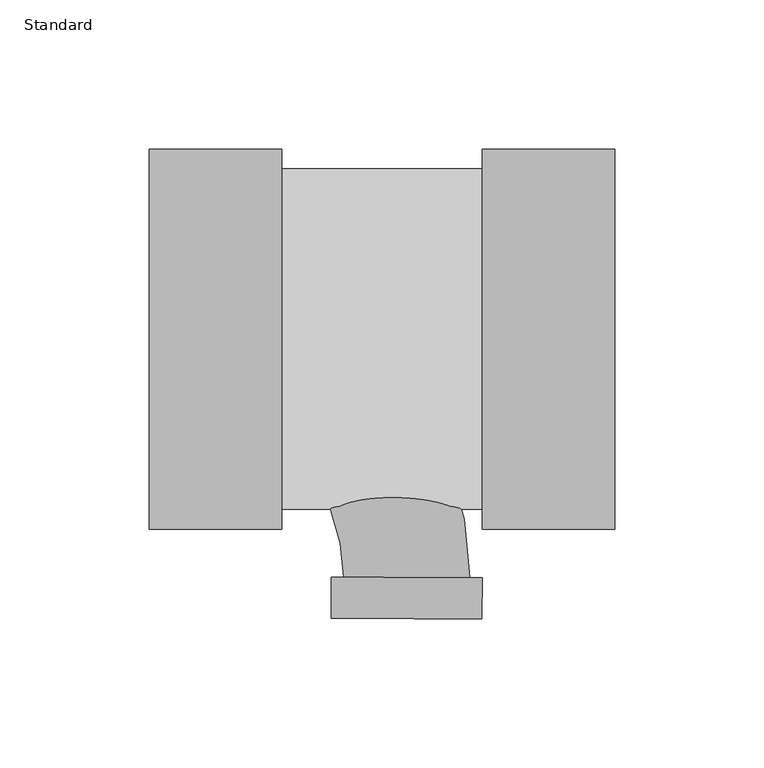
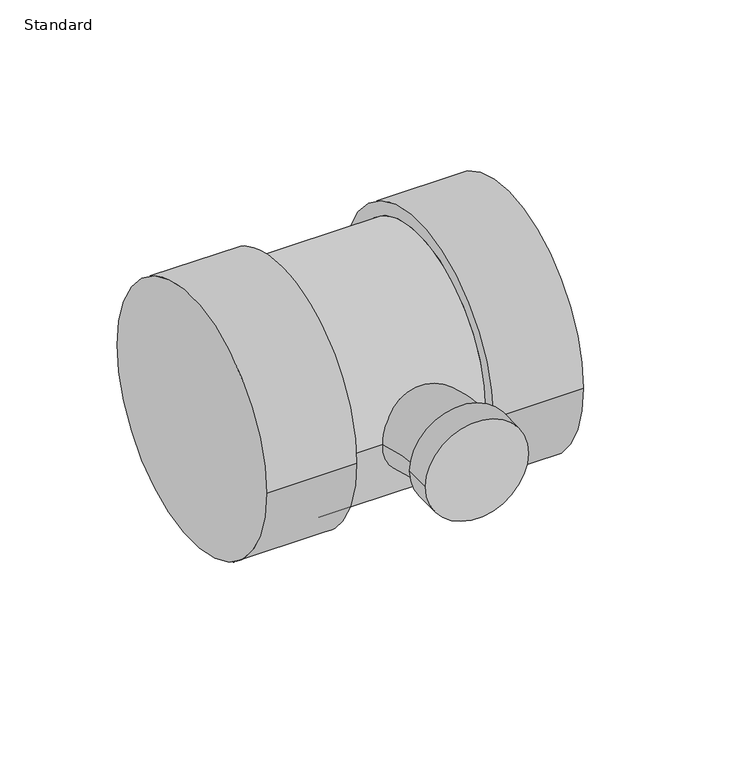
"""IFC4 building model written with IfcOpenShell, lengths in millimetres: pipe fitting geometry, EG-RCAN Té sanitaire de réduction - PVC - Nom. 40 - DWV : Standard."""

import ifcopenshell
import ifcopenshell.guid

model = None  # the IFC model being written
_history = None  # IfcOwnerHistory: only IFC2X3 demands one
_inside = {}  # id of a spatial element -> (the spatial element, [elements in it])
_under = {}  # id of a project, library or spatial element -> (it, [spatial elements below it])
_declared = {}  # id of a project -> (the project, [libraries it declares])
_typed = {}  # id of a type object -> (the type object, [elements of that type])
_made_of = {}  # id of a material, layer set ... -> (it, [elements and type objects made of it])


def new_model(schema):
    """Start an empty IFC model of exactly this schema.

    Asked for "IFC4X3", IfcOpenShell would pick the latest addendum, in which some entities
    have other attributes; the version numbers below select the first issue.
    IFC2X3 requires an IfcOwnerHistory on every rooted entity: one is made here for all.
    """
    global model, _history
    if schema == "IFC4X3":
        model = ifcopenshell.file(schema_version=(4, 3, 0, 0))
    else:
        model = ifcopenshell.file(schema=schema)
    _inside.clear()
    _under.clear()
    _declared.clear()
    _typed.clear()
    _made_of.clear()
    _history = None
    if model.schema == "IFC2X3":
        org = make("IfcOrganization", Name="unknown")
        user = make(
            "IfcPersonAndOrganization",
            ThePerson=make("IfcPerson", FamilyName="unknown"),
            TheOrganization=org,
        )
        app = make(
            "IfcApplication",
            ApplicationDeveloper=org,
            Version="unknown",
            ApplicationFullName="unknown",
            ApplicationIdentifier="unknown",
        )
        _history = make(
            "IfcOwnerHistory",
            OwningUser=user,
            OwningApplication=app,
            ChangeAction="ADDED",
            CreationDate=0,
        )
    return model


def make(cls, **values):
    """One entity of the class cls with the attributes given. An attribute that is None is left unset."""
    return model.create_entity(
        cls, **{name: value for name, value in values.items() if value is not None}
    )


def rooted(cls, **values):
    """An entity with a GlobalId (a new one), such as an element, a storey or a relation."""
    return make(cls, GlobalId=ifcopenshell.guid.new(), OwnerHistory=_history, **values)


def si_unit(unit_type, name, prefix=None):
    """IfcSIUnit, for example si_unit("LENGTHUNIT", "METRE", prefix="MILLI")."""
    return make("IfcSIUnit", UnitType=unit_type, Prefix=prefix, Name=name)


def assignment(units):
    """IfcUnitAssignment: the units of a project."""
    return None if units is None else make("IfcUnitAssignment", Units=units)


def point(xyz):
    """IfcCartesianPoint."""
    return None if xyz is None else make("IfcCartesianPoint", Coordinates=xyz)


def direction(xyz):
    """IfcDirection."""
    return None if xyz is None else make("IfcDirection", DirectionRatios=xyz)


def frame(location, z_axis=None, x_axis=None):
    """IfcAxis2Placement3D, a coordinate frame: its origin and axes. An axis left out is left unset."""
    return make(
        "IfcAxis2Placement3D",
        Location=point(location),
        Axis=direction(z_axis),
        RefDirection=direction(x_axis),
    )


def origin():
    """The frame at (0, 0, 0) with its axes left unset."""
    return frame((0.0, 0.0, 0.0))


def place(relative_to, where):
    """IfcLocalPlacement: puts the frame where relative to a parent placement (None: the world)."""
    return make(
        "IfcLocalPlacement", PlacementRelTo=relative_to, RelativePlacement=where
    )


def context(
    kind, dimensions, precision=None, world=None, true_north=None, identifier=None
):
    """IfcGeometricRepresentationContext, for example the 3D "Model" context."""
    return make(
        "IfcGeometricRepresentationContext",
        ContextIdentifier=identifier,
        ContextType=kind,
        CoordinateSpaceDimension=dimensions,
        Precision=precision,
        WorldCoordinateSystem=world,
        TrueNorth=true_north,
    )


def project(units=None, contexts=None):
    """IfcProject with its units and contexts."""
    return rooted(
        "IfcProject",
        Name="project",
        RepresentationContexts=contexts,
        UnitsInContext=assignment(units),
    )


def spatial(cls, under=None, at=None, **own):
    """A site, building, storey or space (cls), placed at a placement, below another one or the project."""
    s = rooted(cls, ObjectPlacement=at, **own)
    if under is not None:
        _under.setdefault(under.id(), (under, []))[1].append(s)
    return s


def circle_curve(where, radius):
    """IfcCircle in the frame where."""
    return make("IfcCircle", Position=where, Radius=radius)


def ellipse_curve(where, semi_axis1, semi_axis2):
    """IfcEllipse in the frame where."""
    return make(
        "IfcEllipse", Position=where, SemiAxis1=semi_axis1, SemiAxis2=semi_axis2
    )


def trimmed(basis, trim1, trim2, sense, master):
    """IfcTrimmedCurve: the piece of a basis curve between two trims."""
    return make(
        "IfcTrimmedCurve",
        BasisCurve=basis,
        Trim1=trim1,
        Trim2=trim2,
        SenseAgreement=sense,
        MasterRepresentation=master,
    )


def shape(context_of_items, identifier, shape_type, items):
    """IfcShapeRepresentation: the items that make up one representation, for example the "Body"."""
    return make(
        "IfcShapeRepresentation",
        ContextOfItems=context_of_items,
        RepresentationIdentifier=identifier,
        RepresentationType=shape_type,
        Items=items,
    )


def source(mapping_origin, context_of_items, identifier, shape_type, items):
    """IfcRepresentationMap: a shape defined once, which mapped items show again and again."""
    return make(
        "IfcRepresentationMap",
        MappingOrigin=mapping_origin,
        MappedRepresentation=shape(context_of_items, identifier, shape_type, items),
    )


def transform(
    local_origin,
    x_axis=None,
    y_axis=None,
    z_axis=None,
    scale=None,
    scale2=None,
    scale3=None,
    uniform=True,
):
    """IfcCartesianTransformationOperator3D, or its non-uniform kind. x_axis, y_axis, z_axis: its Axis1, 2, 3."""
    if uniform:
        return make(
            "IfcCartesianTransformationOperator3D",
            Axis1=direction(x_axis),
            Axis2=direction(y_axis),
            LocalOrigin=point(local_origin),
            Scale=scale,
            Axis3=direction(z_axis),
        )
    return make(
        "IfcCartesianTransformationOperator3DnonUniform",
        Axis1=direction(x_axis),
        Axis2=direction(y_axis),
        LocalOrigin=point(local_origin),
        Scale=scale,
        Axis3=direction(z_axis),
        Scale2=scale2,
        Scale3=scale3,
    )


def mapped(mapping_source, mapping_target):
    """IfcMappedItem: shows the shape of a source again, moved by a transform."""
    return make(
        "IfcMappedItem", MappingSource=mapping_source, MappingTarget=mapping_target
    )


def made_of(thing, what):
    """Note that an element or type object is made of a material, layer set ...; save() writes the relation."""
    if what is not None:
        _made_of.setdefault(what.id(), (what, []))[1].append(thing)
    return thing


def element(
    cls,
    number,
    at=None,
    inside=None,
    cuts=None,
    type_object=None,
    material=None,
    context=None,
    identifier="Body",
    shape_type=None,
    held_by="IfcProductDefinitionShape",
    body=None,
    shapes=None,
    **own,
):
    """One element of the class cls, such as IfcWall. Its Tag is "e" and its number.

    at: its placement. inside: the storey or other place that contains it. cuts: it is an
    opening in that element (IfcRelVoidsElement). A single representation is given by context,
    identifier, shape_type and body (its items); several are given by shapes. held_by: the class
    of the entity that holds the representations. save() writes the other relations.
    """
    e = rooted(cls, Tag="e%d" % number, ObjectPlacement=at, **own)
    if body is not None:
        shapes = [shape(context, identifier, shape_type, body)]
    if shapes is not None:
        e.Representation = make(held_by, Representations=shapes)
    if inside is not None:
        _inside.setdefault(inside.id(), (inside, []))[1].append(e)
    if cuts is not None:
        rooted(
            "IfcRelVoidsElement", RelatingBuildingElement=cuts, RelatedOpeningElement=e
        )
    if type_object is not None:
        _typed.setdefault(type_object.id(), (type_object, []))[1].append(e)
    return made_of(e, material)


def aggregate(whole, parts):
    """IfcRelAggregates: a whole, such as a stair, and the parts it consists of."""
    return rooted("IfcRelAggregates", RelatingObject=whole, RelatedObjects=parts)


def save(model, path):
    """Write the relations noted so far, then the file.

    IfcRelAggregates (storeys below a building ...), IfcRelContainedInSpatialStructure (elements
    in a storey), IfcRelDefinesByType, IfcRelAssociatesMaterial and IfcRelDeclares: one each for
    every whole, place, type object, material and project.
    """
    for whole, parts in _under.values():
        aggregate(whole, parts)
    for where, things in _inside.values():
        rooted(
            "IfcRelContainedInSpatialStructure",
            RelatedElements=things,
            RelatingStructure=where,
        )
    for kind, things in _typed.values():
        rooted("IfcRelDefinesByType", RelatedObjects=things, RelatingType=kind)
    for what, things in _made_of.values():
        rooted("IfcRelAssociatesMaterial", RelatedObjects=things, RelatingMaterial=what)
    for by, libraries in _declared.values():
        rooted("IfcRelDeclares", RelatingContext=by, RelatedDefinitions=libraries)
    model.write(path)


def plane_surface(at):
    """IfcPlane: the flat surface through the origin of the frame at, square to its z axis."""
    return make("IfcPlane", Position=at)


def cylinder_surface(at, radius):
    """IfcCylindricalSurface: all points at the distance radius from the z axis of the frame at."""
    return make("IfcCylindricalSurface", Position=at, Radius=radius)


def revolved_surface(curve, axis_point, axis_direction):
    """IfcSurfaceOfRevolution: the curve turned about the line through axis_point along axis_direction."""
    return make(
        "IfcSurfaceOfRevolution",
        SweptCurve=make("IfcArbitraryOpenProfileDef", ProfileType="CURVE", Curve=curve),
        AxisPosition=make("IfcAxis1Placement", Location=point(axis_point), Axis=direction(axis_direction)),
    )


def advanced_brep(points, edges, surfaces, faces):
    """IfcAdvancedBrep: a solid bounded by faces that lie on surfaces and meet in shared edges.

    An edge is (start, end): straight between two places in points (the first is 0);
    or (start, end, curve); or (start, end, curve, False) where it runs against its curve.
    A face is (place in surfaces, loops), or (place, loops, False) where it looks against
    its surface's normal. A loop lists edges by number (the first is 1), with a minus sign
    where the edge is run from its end to its start. The first loop is the outer one.
    """
    corners = [point(p) for p in points]
    vertices = [make("IfcVertexPoint", VertexGeometry=c) for c in corners]
    made = []
    for start, end, *more in edges:
        made.append(
            make(
                "IfcEdgeCurve",
                EdgeStart=vertices[start],
                EdgeEnd=vertices[end],
                EdgeGeometry=more[0] if more else make("IfcPolyline", Points=[corners[start], corners[end]]),
                SameSense=more[1] if len(more) > 1 else True,
            )
        )
    hull = []
    for where, loops, *sense in faces:
        bounds = []
        for j, loop in enumerate(loops):
            ring = [make("IfcOrientedEdge", EdgeElement=made[abs(k) - 1], Orientation=k > 0) for k in loop]
            bounds.append(
                make(
                    "IfcFaceOuterBound" if j == 0 else "IfcFaceBound",
                    Bound=make("IfcEdgeLoop", EdgeList=ring),
                    Orientation=True,
                )
            )
        hull.append(make("IfcAdvancedFace", Bounds=bounds, FaceSurface=surfaces[where], SameSense=sense[0] if sense else True))
    return make("IfcAdvancedBrep", Outer=make("IfcClosedShell", CfsFaces=hull))


def standard_58a6ea9f(model_context):
    return source(origin(), model_context, "Body", "AdvancedBrep", [
        advanced_brep(
        [(24.8273591, -63.754, 0.0), (24.8273591, 63.754, 0.0), (24.8273591, -57.15, 0.0), (24.8273591, 57.15, 0.0), (69.2773591, -63.754, 0.0), (69.2773591, 63.754, 0.0), (-42.4599062, 57.15, 0.0), (-42.4599062, -57.15, 0.0), (-86.9099063, -63.754, 0.0), (-86.9099062, 63.754, 0.0), (-42.4599063, -63.754, 0.0), (-42.4599062, 63.754, 0.0)],
        [
            (0, 1, circle_curve(frame((24.8273591, 0.0, 0.0), z_axis=(-1.0, 0.0, 0.0), x_axis=(0.0, 1.0, 0.0)), 63.754)),
            (1, 0, circle_curve(frame((24.8273591, 0.0, 0.0), z_axis=(-1.0, 0.0, 0.0), x_axis=(0.0, 1.0, 0.0)), 63.754)),
            (2, 3, circle_curve(frame((24.8273591, 0.0, 0.0), z_axis=(1.0, 0.0, 0.0), x_axis=(0.0, 0.0, -1.0)), 57.15)),
            (3, 2, circle_curve(frame((24.8273591, 0.0, 0.0), z_axis=(1.0, 0.0, 0.0), x_axis=(0.0, 0.0, 1.0)), 57.15)),
            (4, 5, circle_curve(frame((69.2773591, 0.0, 0.0), z_axis=(1.0, 0.0, 0.0), x_axis=(0.0, 1.0, 0.0)), 63.754)),
            (5, 4, circle_curve(frame((69.2773591, 0.0, 0.0), z_axis=(1.0, 0.0, 0.0), x_axis=(0.0, 1.0, 0.0)), 63.754)),
            (0, 4),
            (5, 1),
            (6, 3),
            (2, 7),
            (7, 6, circle_curve(frame((-42.4599063, 0.0, 0.0), z_axis=(1.0, 0.0, 0.0), x_axis=(0.0, 0.0, -1.0)), 57.15)),
            (6, 7, circle_curve(frame((-42.4599062, 0.0, 0.0), z_axis=(1.0, 0.0, 0.0), x_axis=(0.0, 0.0, 1.0)), 57.15)),
            (8, 9, circle_curve(frame((-86.9099062, 0.0, 0.0), z_axis=(-1.0, 0.0, 0.0), x_axis=(0.0, 1.0, 0.0)), 63.754)),
            (9, 8, circle_curve(frame((-86.9099062, 0.0, 0.0), z_axis=(-1.0, 0.0, 0.0), x_axis=(0.0, 1.0, 0.0)), 63.754)),
            (10, 11, circle_curve(frame((-42.4599062, 0.0, 0.0), z_axis=(1.0, 0.0, 0.0), x_axis=(0.0, 1.0, 0.0)), 63.754)),
            (11, 10, circle_curve(frame((-42.4599062, 0.0, 0.0), z_axis=(1.0, 0.0, 0.0), x_axis=(0.0, 1.0, 0.0)), 63.754)),
            (8, 10),
            (11, 9),
        ],
        [
            plane_surface(frame((24.8273591, 0.0, 0.0), z_axis=(-1.0, 0.0, 0.0), x_axis=(0.0, 0.0, 1.0))),
            plane_surface(frame((69.2773591, 0.0, 0.0), z_axis=(1.0, 0.0, 0.0), x_axis=(0.0, 0.0, 1.0))),
            cylinder_surface(frame((24.8273591, 0.0, 0.0), z_axis=(-1.0, 0.0, 0.0), x_axis=(0.0, 1.0, 0.0)), 63.754),
            cylinder_surface(frame((-42.4599062, 0.0, 0.0), z_axis=(1.0, 0.0, 0.0), x_axis=(0.0, 0.0, -1.0)), 57.15),
            cylinder_surface(frame((-42.4599062, 0.0, 0.0), z_axis=(1.0, 0.0, 0.0), x_axis=(0.0, 0.0, 1.0)), 57.15),
            plane_surface(frame((-86.9099062, 0.0, 0.0), z_axis=(-1.0, 0.0, 0.0), x_axis=(0.0, 0.0, 1.0))),
            plane_surface(frame((-42.4599062, 0.0, 0.0), z_axis=(1.0, 0.0, 0.0), x_axis=(0.0, 0.0, 1.0))),
            cylinder_surface(frame((-86.9099062, 0.0, 0.0), z_axis=(-1.0, 0.0, 0.0), x_axis=(0.0, 1.0, 0.0)), 63.754),
        ],
        [
            (0, [[1, 2], [3, 4]]),
            (1, [[5, 6]]),
            (2, [[-1, 7, -6, 8]]),
            (2, [[-2, -8, -5, -7]]),
            (3, [[9, -3, 10, 11]]),
            (4, [[-9, 12, -10, -4]]),
            (5, [[13, 14]]),
            (6, [[15, 16], [-11, -12]]),
            (7, [[-13, 17, -16, 18]]),
            (7, [[-14, -18, -15, -17]]),
        ],
    ),
        advanced_brep(
        [(-25.7060981, -79.8877281, 0.0), (24.8273591, -80.1651721, 0.0), (20.7643734, -80.1428651, 0.0), (-21.6431124, -79.9100351, 0.0), (-25.7815354, -93.6278335, 0.0), (24.7519217, -93.9052775, 0.0), (-80.0276562, -21.2040625, 0.0), (-80.0276562, 21.2040625, 0.0)],
        [
            (0, 1, circle_curve(frame((-0.4393695, -80.0264501, 0.0), z_axis=(0.005490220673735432, 0.9999849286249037, 0.0), x_axis=(0.9999849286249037, -0.005490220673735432, 0.0)), 25.2671094)),
            (1, 0, circle_curve(frame((-0.4393695, -80.0264501, 0.0), z_axis=(0.005490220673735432, 0.9999849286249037, 0.0), x_axis=(0.9999849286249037, -0.005490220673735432, 0.0)), 25.2671094)),
            (2, 3, circle_curve(frame((-0.4393695, -80.0264501, 0.0), z_axis=(-0.00549022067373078, -0.9999849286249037, 0.0), x_axis=(0.9999849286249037, -0.00549022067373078, 0.0)), 21.2040625)),
            (3, 2, circle_curve(frame((-0.4393695, -80.0264501, 0.0), z_axis=(-0.00549022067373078, -0.9999849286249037, 0.0), x_axis=(0.9999849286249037, -0.00549022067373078, 0.0)), 21.2040625)),
            (4, 5, circle_curve(frame((-0.5148068, -93.7665555, 0.0), z_axis=(-0.005490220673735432, -0.9999849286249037, 0.0), x_axis=(0.9999849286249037, -0.005490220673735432, 0.0)), 25.2671094)),
            (5, 4, circle_curve(frame((-0.5148068, -93.7665555, 0.0), z_axis=(-0.005490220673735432, -0.9999849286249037, 0.0), x_axis=(0.9999849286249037, -0.005490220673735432, 0.0)), 25.2671094)),
            (0, 4),
            (5, 1),
            (6, 7, circle_curve(frame((-80.0276562, 0.0, 0.0), z_axis=(-1.0, 0.0, 0.0), x_axis=(0.0, 1.0, 0.0)), 21.2040625)),
            (7, 6, circle_curve(frame((-80.0276562, 0.0, 0.0), z_axis=(-1.0, 0.0, 0.0), x_axis=(0.0, 1.0, 0.0)), 21.2040625)),
            (6, 3, circle_curve(frame((-80.0276562, -79.5894863, 0.0), z_axis=(0.0, 0.0, -1.0), x_axis=(0.0, 1.0, 0.0)), 58.3854238)),
            (2, 7, circle_curve(frame((-80.0276562, -79.5894863, 0.0), z_axis=(0.0, 0.0, 1.0), x_axis=(0.0, 1.0, 0.0)), 100.7935488)),
        ],
        [
            plane_surface(frame((-0.4393695, -80.0264501, 0.0), z_axis=(0.005490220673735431, 0.9999849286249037, 0.0), x_axis=(0.0, 0.0, 1.0))),
            plane_surface(frame((-0.5148068, -93.7665555, 0.0), z_axis=(-0.005490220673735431, -0.9999849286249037, 0.0), x_axis=(0.0, 0.0, 1.0))),
            cylinder_surface(frame((-0.4393695, -80.0264501, 0.0), z_axis=(0.005490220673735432, 0.9999849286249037, 0.0), x_axis=(0.9999849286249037, -0.005490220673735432, 0.0)), 25.2671094),
            plane_surface(frame((-80.0276562, 0.0, 0.0), z_axis=(-1.0, 0.0, 0.0), x_axis=(0.0, 0.0, 1.0))),
            revolved_surface(trimmed(ellipse_curve(frame((-80.0276562, 0.0, 0.0), z_axis=(-1.0, 0.0, 0.0), x_axis=(0.0, 1.0, 0.0)), 21.2040625, 21.2040625), [point((-80.0276562, -21.2040625, 0.0))], [point((-80.0276562, 21.2040625, 0.0))], True, "CARTESIAN"), (-80.0276562, -79.5894863, 0.0), (0.0, 0.0, -1.0)),
            revolved_surface(trimmed(ellipse_curve(frame((-80.0276562, 0.0, 0.0), z_axis=(-1.0, 0.0, 0.0), x_axis=(0.0, 1.0, 0.0)), 21.2040625, 21.2040625), [point((-80.0276562, 21.2040625, 0.0))], [point((-80.0276562, -21.2040625, 0.0))], True, "CARTESIAN"), (-80.0276562, -79.5894863, 0.0), (0.0, 0.0, -1.0)),
        ],
        [
            (0, [[1, 2], [3, 4]]),
            (1, [[5, 6]]),
            (2, [[-1, 7, -6, 8]]),
            (2, [[-2, -8, -5, -7]]),
            (3, [[9, 10]]),
            (4, [[-9, 11, -3, 12]]),
            (5, [[-10, -12, -4, -11]]),
        ],
    ),
    ])


if __name__ == "__main__":
    model = new_model("IFC4")
    model_context = context("Model", 3, world=origin())
    ifc_project = project(units=[si_unit("LENGTHUNIT", "METRE", prefix="MILLI")], contexts=[model_context])
    site = spatial("IfcSite", under=ifc_project)
    building = spatial("IfcBuilding", under=site)
    placement = place(None, origin())
    standard_shape = standard_58a6ea9f(model_context)
    element("IfcPipeFitting", 1, ObjectType="EG-RCAN Té sanitaire de réduction - PVC - Nom. 40 - DWV : Standard", at=placement, inside=building, context=model_context, shape_type="MappedRepresentation", body=[
        mapped(standard_shape, transform((0.0, 0.0, 0.0), x_axis=(1.0, 0.0, 0.0), y_axis=(0.0, 1.0, 0.0), z_axis=(0.0, 0.0, 1.0))),
    ])
    save(model, "model.ifc")
